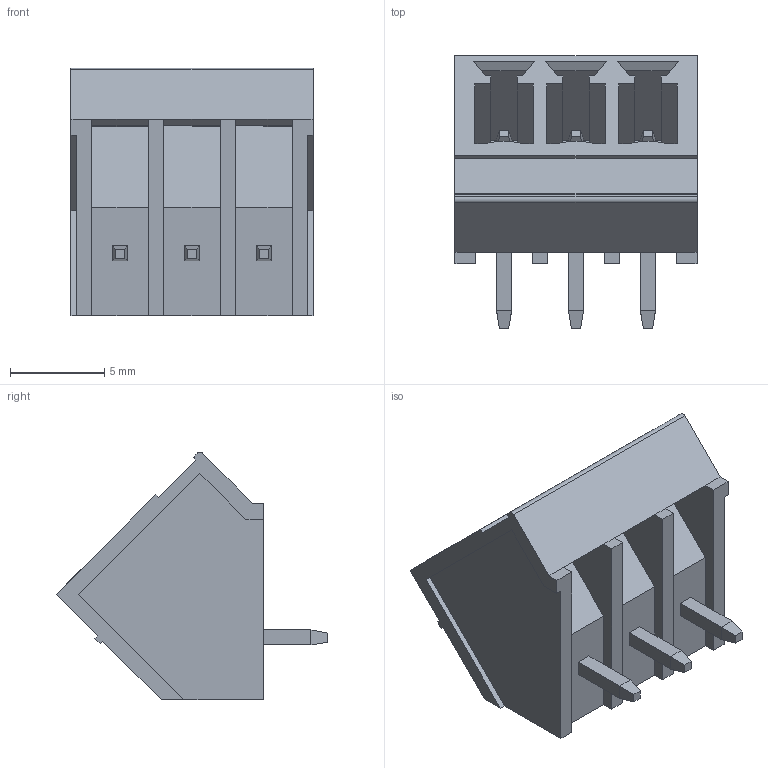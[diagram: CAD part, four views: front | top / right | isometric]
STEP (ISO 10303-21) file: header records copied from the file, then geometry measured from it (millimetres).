
FILE_DESCRIPTION((''),'2;1');
FILE_NAME('3PIN_SW0001','2019-05-10T',('zhenbing.lai'),(''),'CREO PARAMETRIC BY PTC INC, 2016260','CREO PARAMETRIC BY PTC INC, 2016260','');
FILE_SCHEMA(('CONFIG_CONTROL_DESIGN'));
Length unit declared in the file: millimetre
Products named in the file (1): 3PIN_SW0001
Bounding box: 12.82 x 14.4 x 13.1 mm (x, y, z)
Volume: 719.4 mm3; surface area: 1306.5 mm2
Topology: 1 solids, 1 shells, 176 faces, 459 edges, 294 vertices
Faces by surface type: plane 168, cylinder 5, cone 3
Entity records: 5304 total; most frequent: CARTESIAN_POINT 959, ORIENTED_EDGE 918, DIRECTION 818, EDGE_CURVE 459, VECTOR 440, LINE 440, VERTEX_POINT 294, AXIS2_PLACEMENT_3D 189
